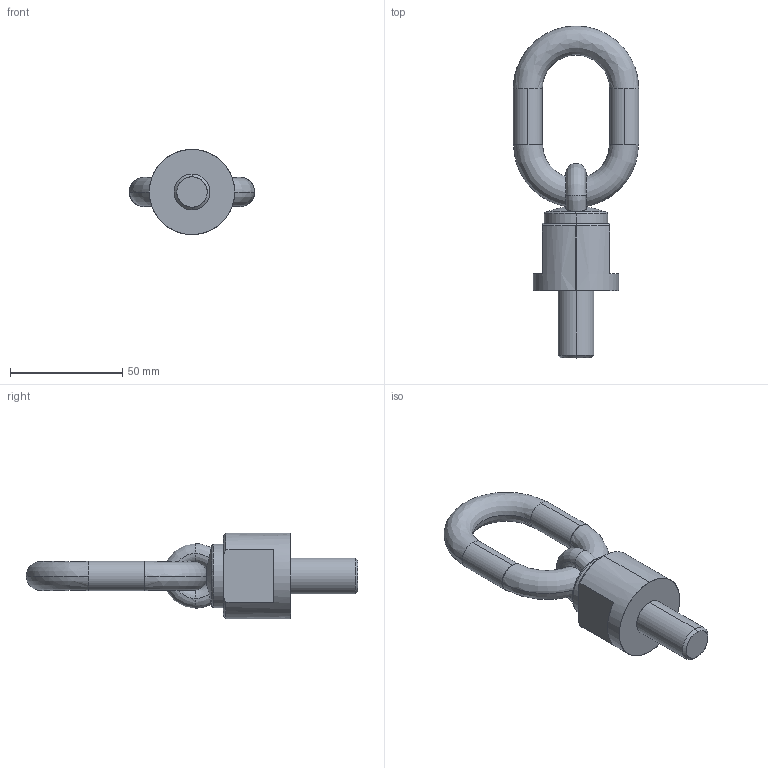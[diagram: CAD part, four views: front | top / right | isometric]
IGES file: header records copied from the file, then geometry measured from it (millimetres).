
Start section: START RECORD GO HERE.
Global section: file name: C8000101630.igs; native system: DASSAULT SYSTEMES CATIA V5 R20 - www.3ds.com; preprocessor: CATIA Version 5 Release 20 ; author: Utente; organization: NB04-ASUS; date: 20200412.161813; units: millimetre
Bounding box: 56 x 148 x 38 mm (x, y, z)
Surface area: 15829.7 mm2 (no closed solid volume)
Topology: 0 solids, 0 shells, 45 faces, 246 edges, 246 vertices
Faces by surface type: revolution 33, extrusion 12
